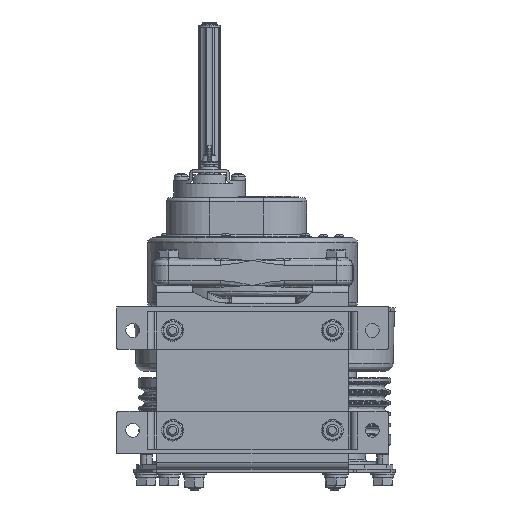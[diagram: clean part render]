
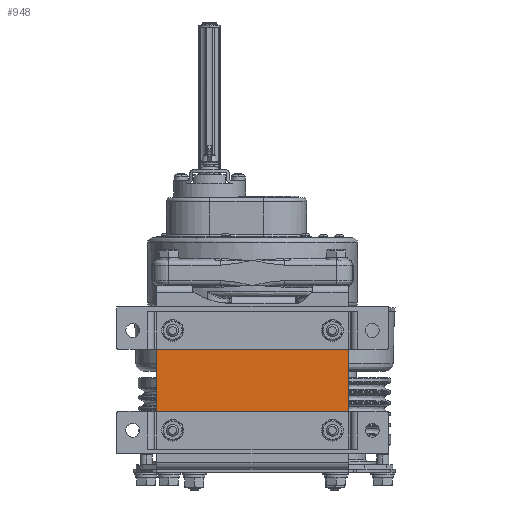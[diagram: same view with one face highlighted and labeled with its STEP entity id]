
A CAD part, front view. The second image highlights one B-rep face of the part: STEP entity #948.
In plain terms, the highlighted planar face has unit normal (0, -1, 0).
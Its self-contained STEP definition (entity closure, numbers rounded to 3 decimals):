
#948=ADVANCED_FACE('',(#10559),#10558,.T.);
#10558=PLANE('',#35305);
#10559=FACE_OUTER_BOUND('',#35306,.T.);
#35302=CARTESIAN_POINT('',(1448.16,-105.5,-280.044));
#35303=DIRECTION('',(0.,-1.,0.));
#35304=DIRECTION('',(0.,0.,1.));
#35305=AXIS2_PLACEMENT_3D('',#35302,#35303,#35304);
#35306=EDGE_LOOP('',(#52511,#52512,#52513,#52514));
#52511=ORIENTED_EDGE('',*,*,#64240,.T.);
#52512=ORIENTED_EDGE('',*,*,#64051,.T.);
#52513=ORIENTED_EDGE('',*,*,#64225,.F.);
#52514=ORIENTED_EDGE('',*,*,#64127,.T.);
#64051=EDGE_CURVE('',#83467,#83147,#83553,.T.);
#64127=EDGE_CURVE('',#83633,#83960,#84058,.T.);
#64225=EDGE_CURVE('',#83633,#83147,#84711,.T.);
#64240=EDGE_CURVE('',#83960,#83467,#84813,.T.);
#83147=VERTEX_POINT('',#123450);
#83467=VERTEX_POINT('',#123647);
#83553=LINE('',#123700,#123701);
#83633=VERTEX_POINT('',#123748);
#83960=VERTEX_POINT('',#123949);
#84058=LINE('',#124008,#124009);
#84711=LINE('',#124480,#124481);
#84813=LINE('',#124543,#124544);
#123450=CARTESIAN_POINT('',(1246.16,-105.5,-211.844));
#123647=CARTESIAN_POINT('',(1438.16,-105.5,-211.844));
#123700=CARTESIAN_POINT('',(1438.16,-105.5,-211.844));
#123701=VECTOR('',#123702,192.);
#123702=DIRECTION('',(-1.,0.,0.));
#123748=CARTESIAN_POINT('',(1246.16,-105.5,-273.844));
#123949=CARTESIAN_POINT('',(1438.16,-105.5,-273.844));
#124008=CARTESIAN_POINT('',(1246.16,-105.5,-273.844));
#124009=VECTOR('',#124010,192.);
#124010=DIRECTION('',(1.,0.,0.));
#124480=CARTESIAN_POINT('',(1246.16,-105.5,-273.844));
#124481=VECTOR('',#124482,62.);
#124482=DIRECTION('',(0.,0.,1.));
#124543=CARTESIAN_POINT('',(1438.16,-105.5,-273.844));
#124544=VECTOR('',#124545,62.);
#124545=DIRECTION('',(0.,0.,1.));
